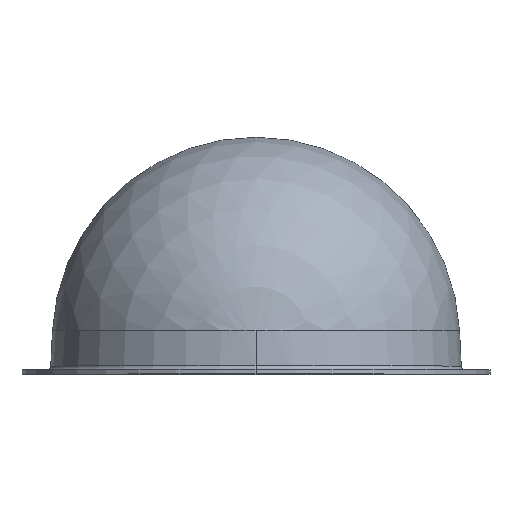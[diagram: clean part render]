
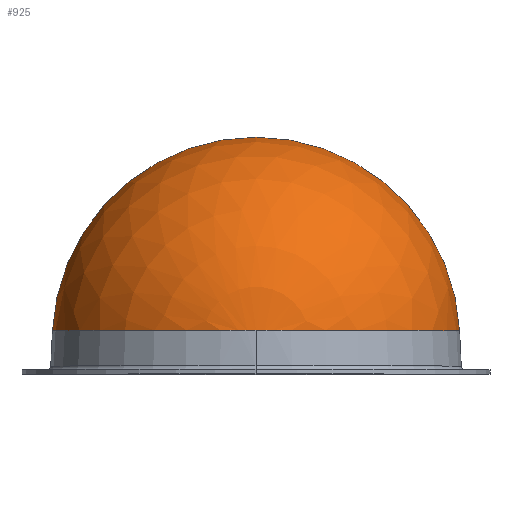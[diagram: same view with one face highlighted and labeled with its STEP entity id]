
A CAD part, top view. The second image highlights one B-rep face of the part: STEP entity #925.
In plain terms, the highlighted spherical face has radius 94.28 mm.
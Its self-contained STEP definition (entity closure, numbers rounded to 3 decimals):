
#20 = CARTESIAN_POINT ( 'NONE',  ( -94.159, 20.19, 0. ) ) ;
#60 = CIRCLE ( 'NONE', #733, 94.159 ) ;
#138 = DIRECTION ( 'NONE',  ( -1., 0., 0. ) ) ;
#166 = SPHERICAL_SURFACE ( 'NONE', #802, 94.28 ) ;
#225 = DIRECTION ( 'NONE',  ( 1., 0., 0. ) ) ;
#257 = AXIS2_PLACEMENT_3D ( 'NONE', #879, #978, #138 ) ;
#327 = DIRECTION ( 'NONE',  ( 0., 0., -1. ) ) ;
#365 = ORIENTED_EDGE ( 'NONE', *, *, #538, .T. ) ;
#436 = ORIENTED_EDGE ( 'NONE', *, *, #455, .F. ) ;
#455 = EDGE_CURVE ( 'NONE', #1360, #543, #1127, .T. ) ;
#460 = ORIENTED_EDGE ( 'NONE', *, *, #834, .T. ) ;
#515 = AXIS2_PLACEMENT_3D ( 'NONE', #720, #1043, #827 ) ;
#517 = CARTESIAN_POINT ( 'NONE',  ( 0., 15.42, 0. ) ) ;
#538 = EDGE_CURVE ( 'NONE', #582, #1362, #60, .T. ) ;
#543 = VERTEX_POINT ( 'NONE', #1020 ) ;
#582 = VERTEX_POINT ( 'NONE', #1355 ) ;
#602 = EDGE_LOOP ( 'NONE', ( #436, #460, #365, #1226 ) ) ;
#621 = CIRCLE ( 'NONE', #691, 94.28 ) ;
#679 = DIRECTION ( 'NONE',  ( 0., 1., 0. ) ) ;
#691 = AXIS2_PLACEMENT_3D ( 'NONE', #1276, #724, #1412 ) ;
#720 = CARTESIAN_POINT ( 'NONE',  ( 0., 20.19, 0. ) ) ;
#724 = DIRECTION ( 'NONE',  ( 0., 0., 1. ) ) ;
#733 = AXIS2_PLACEMENT_3D ( 'NONE', #1003, #679, #1125 ) ;
#802 = AXIS2_PLACEMENT_3D ( 'NONE', #517, #327, #225 ) ;
#811 = EDGE_CURVE ( 'NONE', #1362, #543, #621, .T. ) ;
#827 = DIRECTION ( 'NONE',  ( 0., 0., 1. ) ) ;
#834 = EDGE_CURVE ( 'NONE', #1360, #582, #1200, .T. ) ;
#879 = CARTESIAN_POINT ( 'NONE',  ( 0., 15.42, 0. ) ) ;
#925 = ADVANCED_FACE ( 'NONE', ( #930 ), #166, .T. ) ;
#930 = FACE_OUTER_BOUND ( 'NONE', #602, .T. ) ;
#978 = DIRECTION ( 'NONE',  ( 0., 0., -1. ) ) ;
#1003 = CARTESIAN_POINT ( 'NONE',  ( 0., 20.19, 0. ) ) ;
#1020 = CARTESIAN_POINT ( 'NONE',  ( 0., 109.7, 0. ) ) ;
#1043 = DIRECTION ( 'NONE',  ( 0., 1., 0. ) ) ;
#1095 = CARTESIAN_POINT ( 'NONE',  ( 94.159, 20.19, 0. ) ) ;
#1125 = DIRECTION ( 'NONE',  ( 0., 0., 1. ) ) ;
#1127 = CIRCLE ( 'NONE', #257, 94.28 ) ;
#1200 = CIRCLE ( 'NONE', #515, 94.159 ) ;
#1226 = ORIENTED_EDGE ( 'NONE', *, *, #811, .T. ) ;
#1276 = CARTESIAN_POINT ( 'NONE',  ( 0., 15.42, 0. ) ) ;
#1355 = CARTESIAN_POINT ( 'NONE',  ( 0., 20.19, 94.159 ) ) ;
#1360 = VERTEX_POINT ( 'NONE', #20 ) ;
#1362 = VERTEX_POINT ( 'NONE', #1095 ) ;
#1412 = DIRECTION ( 'NONE',  ( 1., 0., 0. ) ) ;
